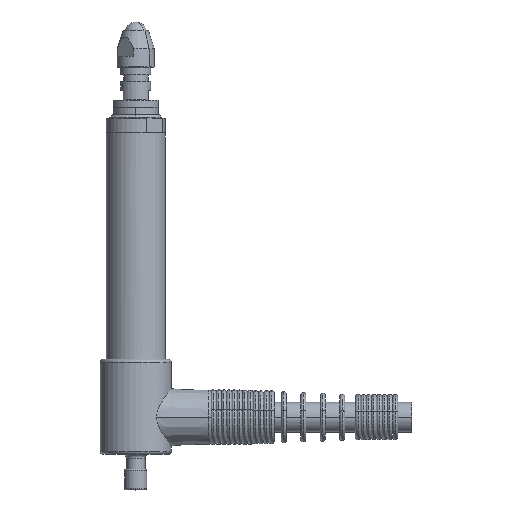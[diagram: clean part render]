
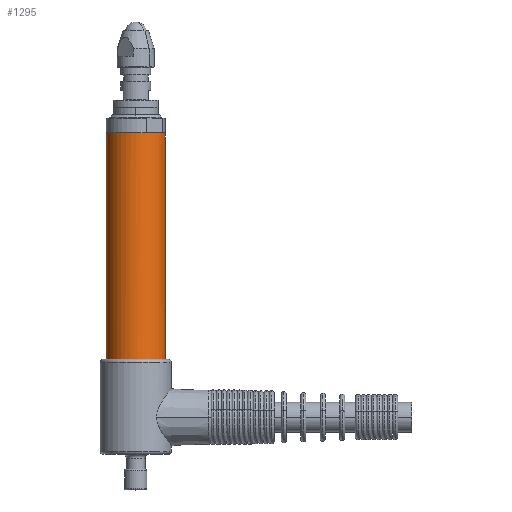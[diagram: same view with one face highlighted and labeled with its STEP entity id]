
A CAD part, top view. The second image highlights one B-rep face of the part: STEP entity #1295.
In plain terms, the highlighted cylindrical face has radius 4 mm (diameter 8 mm), a partial arc.
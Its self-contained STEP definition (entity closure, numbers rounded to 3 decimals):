
#68 = AXIS2_PLACEMENT_3D ( 'NONE', #6350, #7003, #5986 ) ;
#287 = CIRCLE ( 'NONE', #5251, 4. ) ;
#533 = VERTEX_POINT ( 'NONE', #6391 ) ;
#637 = LINE ( 'NONE', #2014, #7385 ) ;
#676 = CARTESIAN_POINT ( 'NONE',  ( -10.022, 9.787, 0. ) ) ;
#784 = EDGE_CURVE ( 'NONE', #9215, #7179, #287, .T. ) ;
#788 = EDGE_CURVE ( 'NONE', #9215, #2856, #2541, .T. ) ;
#928 = EDGE_CURVE ( 'NONE', #8175, #533, #4406, .T. ) ;
#1001 = EDGE_CURVE ( 'NONE', #8175, #7179, #637, .T. ) ;
#1295 = ADVANCED_FACE ( 'NONE', ( #6514 ), #7691, .T. ) ;
#1344 = EDGE_CURVE ( 'NONE', #2856, #5242, #1763, .T. ) ;
#1399 = EDGE_CURVE ( 'NONE', #533, #7128, #6250, .T. ) ;
#1763 = CIRCLE ( 'NONE', #9243, 4. ) ;
#1772 = ORIENTED_EDGE ( 'NONE', *, *, #928, .F. ) ;
#1841 = DIRECTION ( 'NONE',  ( 0., -1., 0. ) ) ;
#2005 = CIRCLE ( 'NONE', #7362, 4. ) ;
#2014 = CARTESIAN_POINT ( 'NONE',  ( -10.022, 9.787, 0. ) ) ;
#2353 = DIRECTION ( 'NONE',  ( 1., 0., 0. ) ) ;
#2360 = DIRECTION ( 'NONE',  ( 0., 1., 0. ) ) ;
#2458 = VECTOR ( 'NONE', #9041, 1000. ) ;
#2541 = LINE ( 'NONE', #4510, #3017 ) ;
#2632 = CARTESIAN_POINT ( 'NONE',  ( -4.63, -27.913, 3.75 ) ) ;
#2648 = CARTESIAN_POINT ( 'NONE',  ( -6.022, -25.713, 0. ) ) ;
#2737 = DIRECTION ( 'NONE',  ( 1., 0., 0. ) ) ;
#2739 = DIRECTION ( 'NONE',  ( 0., 1., 0. ) ) ;
#2749 = CARTESIAN_POINT ( 'NONE',  ( -6.022, 9.787, 0. ) ) ;
#2856 = VERTEX_POINT ( 'NONE', #8588 ) ;
#3017 = VECTOR ( 'NONE', #4501, 1000. ) ;
#3138 = VECTOR ( 'NONE', #7093, 1000. ) ;
#3389 = EDGE_CURVE ( 'NONE', #5242, #5363, #6873, .T. ) ;
#3938 = DIRECTION ( 'NONE',  ( -1., 0., 0. ) ) ;
#4406 = CIRCLE ( 'NONE', #6724, 4. ) ;
#4461 = DIRECTION ( 'NONE',  ( -1., 0., 0. ) ) ;
#4481 = DIRECTION ( 'NONE',  ( 0., -1., 0. ) ) ;
#4488 = CARTESIAN_POINT ( 'NONE',  ( -6.022, -27.913, 0. ) ) ;
#4501 = DIRECTION ( 'NONE',  ( 0., 1., 0. ) ) ;
#4510 = CARTESIAN_POINT ( 'NONE',  ( -7.414, 9.787, 3.75 ) ) ;
#5242 = VERTEX_POINT ( 'NONE', #6133 ) ;
#5251 = AXIS2_PLACEMENT_3D ( 'NONE', #4488, #4481, #4461 ) ;
#5363 = VERTEX_POINT ( 'NONE', #2632 ) ;
#5380 = ORIENTED_EDGE ( 'NONE', *, *, #788, .T. ) ;
#5946 = DIRECTION ( 'NONE',  ( 0., -1., 0. ) ) ;
#5986 = DIRECTION ( 'NONE',  ( -1., 0., 0. ) ) ;
#6133 = CARTESIAN_POINT ( 'NONE',  ( -4.63, -25.713, 3.75 ) ) ;
#6250 = LINE ( 'NONE', #9052, #2458 ) ;
#6350 = CARTESIAN_POINT ( 'NONE',  ( -6.022, 9.787, 0. ) ) ;
#6391 = CARTESIAN_POINT ( 'NONE',  ( -2.022, 9.787, 0. ) ) ;
#6479 = ORIENTED_EDGE ( 'NONE', *, *, #784, .F. ) ;
#6514 = FACE_OUTER_BOUND ( 'NONE', #9072, .T. ) ;
#6623 = CARTESIAN_POINT ( 'NONE',  ( -6.022, -27.913, 0. ) ) ;
#6724 = AXIS2_PLACEMENT_3D ( 'NONE', #2749, #2739, #2737 ) ;
#6840 = CARTESIAN_POINT ( 'NONE',  ( -4.63, 9.787, 3.75 ) ) ;
#6873 = LINE ( 'NONE', #6840, #3138 ) ;
#6961 = CARTESIAN_POINT ( 'NONE',  ( -10.022, -27.913, 0. ) ) ;
#7003 = DIRECTION ( 'NONE',  ( 0., -1., 0. ) ) ;
#7093 = DIRECTION ( 'NONE',  ( 0., -1., 0. ) ) ;
#7128 = VERTEX_POINT ( 'NONE', #9315 ) ;
#7154 = ORIENTED_EDGE ( 'NONE', *, *, #1001, .T. ) ;
#7179 = VERTEX_POINT ( 'NONE', #6961 ) ;
#7362 = AXIS2_PLACEMENT_3D ( 'NONE', #6623, #5946, #3938 ) ;
#7385 = VECTOR ( 'NONE', #1841, 1000. ) ;
#7691 = CYLINDRICAL_SURFACE ( 'NONE', #68, 4. ) ;
#7886 = ORIENTED_EDGE ( 'NONE', *, *, #7919, .F. ) ;
#7919 = EDGE_CURVE ( 'NONE', #7128, #5363, #2005, .T. ) ;
#8175 = VERTEX_POINT ( 'NONE', #676 ) ;
#8427 = ORIENTED_EDGE ( 'NONE', *, *, #1399, .F. ) ;
#8588 = CARTESIAN_POINT ( 'NONE',  ( -7.414, -25.713, 3.75 ) ) ;
#8954 = ORIENTED_EDGE ( 'NONE', *, *, #3389, .T. ) ;
#9041 = DIRECTION ( 'NONE',  ( 0., -1., 0. ) ) ;
#9052 = CARTESIAN_POINT ( 'NONE',  ( -2.022, 9.787, 0. ) ) ;
#9072 = EDGE_LOOP ( 'NONE', ( #8427, #1772, #7154, #6479, #5380, #9246, #8954, #7886 ) ) ;
#9215 = VERTEX_POINT ( 'NONE', #9235 ) ;
#9235 = CARTESIAN_POINT ( 'NONE',  ( -7.414, -27.913, 3.75 ) ) ;
#9243 = AXIS2_PLACEMENT_3D ( 'NONE', #2648, #2360, #2353 ) ;
#9246 = ORIENTED_EDGE ( 'NONE', *, *, #1344, .T. ) ;
#9315 = CARTESIAN_POINT ( 'NONE',  ( -2.022, -27.913, 0. ) ) ;
